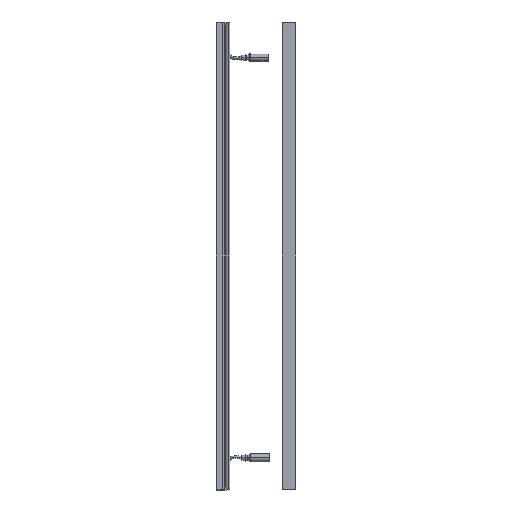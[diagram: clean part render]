
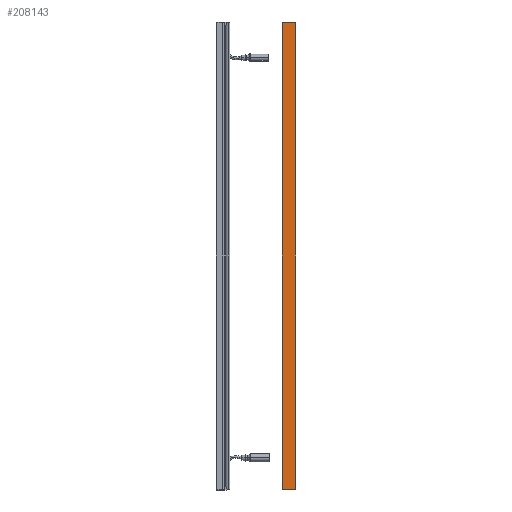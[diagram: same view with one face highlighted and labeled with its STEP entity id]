
A CAD part, left-side view. The second image highlights one B-rep face of the part: STEP entity #208143.
In plain terms, the highlighted planar face has unit normal (-1, 0, 0).
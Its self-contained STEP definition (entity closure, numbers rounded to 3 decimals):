
#5556 = DIRECTION ( 'NONE',  ( 1., 0., 0. ) ) ;
#27912 = ORIENTED_EDGE ( 'NONE', *, *, #106347, .T. ) ;
#50940 = CARTESIAN_POINT ( 'NONE',  ( -14.25, 2., 502.5 ) ) ;
#63351 = VERTEX_POINT ( 'NONE', #540703 ) ;
#65212 = ORIENTED_EDGE ( 'NONE', *, *, #581438, .T. ) ;
#93390 = VERTEX_POINT ( 'NONE', #512454 ) ;
#106347 = EDGE_CURVE ( 'NONE', #63351, #525669, #352326, .T. ) ;
#131458 = LINE ( 'NONE', #176560, #664649 ) ;
#149604 = CARTESIAN_POINT ( 'NONE',  ( -14.25, 30., 502.5 ) ) ;
#160285 = ORIENTED_EDGE ( 'NONE', *, *, #183910, .F. ) ;
#170648 = CARTESIAN_POINT ( 'NONE',  ( -14.25, 2., -502.5 ) ) ;
#176560 = CARTESIAN_POINT ( 'NONE',  ( -14.25, 30., 502.5 ) ) ;
#183910 = EDGE_CURVE ( 'NONE', #93390, #525669, #390773, .T. ) ;
#194125 = DIRECTION ( 'NONE',  ( 0., 0., -1. ) ) ;
#203150 = VERTEX_POINT ( 'NONE', #149604 ) ;
#205719 = LINE ( 'NONE', #655594, #302189 ) ;
#208143 = ADVANCED_FACE ( 'NONE', ( #279463 ), #249881, .F. ) ;
#235852 = DIRECTION ( 'NONE',  ( 0., -1., 0. ) ) ;
#249881 = PLANE ( 'NONE',  #308620 ) ;
#279463 = FACE_OUTER_BOUND ( 'NONE', #448945, .T. ) ;
#300080 = CARTESIAN_POINT ( 'NONE',  ( -14.25, 2., 502.5 ) ) ;
#302189 = VECTOR ( 'NONE', #235852, 1000. ) ;
#308620 = AXIS2_PLACEMENT_3D ( 'NONE', #50940, #5556, #570236 ) ;
#352326 = LINE ( 'NONE', #170648, #417220 ) ;
#358206 = VECTOR ( 'NONE', #194125, 1000. ) ;
#367163 = DIRECTION ( 'NONE',  ( 0., -1., 0. ) ) ;
#390773 = LINE ( 'NONE', #300080, #358206 ) ;
#417220 = VECTOR ( 'NONE', #367163, 1000. ) ;
#430691 = ORIENTED_EDGE ( 'NONE', *, *, #533891, .F. ) ;
#448945 = EDGE_LOOP ( 'NONE', ( #27912, #160285, #430691, #65212 ) ) ;
#512454 = CARTESIAN_POINT ( 'NONE',  ( -14.25, 2., 502.5 ) ) ;
#525669 = VERTEX_POINT ( 'NONE', #636077 ) ;
#533891 = EDGE_CURVE ( 'NONE', #203150, #93390, #205719, .T. ) ;
#540703 = CARTESIAN_POINT ( 'NONE',  ( -14.25, 30., -502.5 ) ) ;
#542153 = DIRECTION ( 'NONE',  ( 0., 0., -1. ) ) ;
#570236 = DIRECTION ( 'NONE',  ( 0., 0., -1. ) ) ;
#581438 = EDGE_CURVE ( 'NONE', #203150, #63351, #131458, .T. ) ;
#636077 = CARTESIAN_POINT ( 'NONE',  ( -14.25, 2., -502.5 ) ) ;
#655594 = CARTESIAN_POINT ( 'NONE',  ( -14.25, 2., 502.5 ) ) ;
#664649 = VECTOR ( 'NONE', #542153, 1000. ) ;
